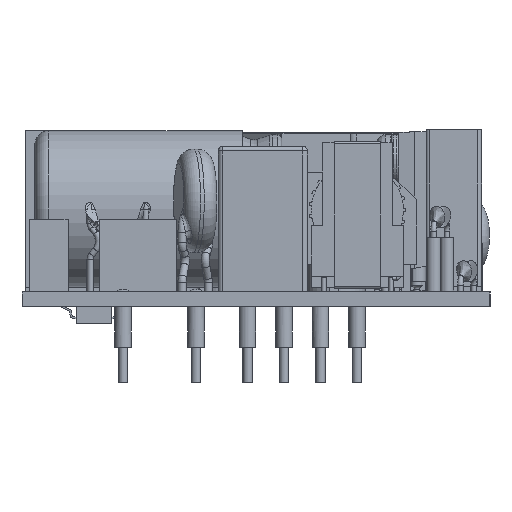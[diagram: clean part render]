
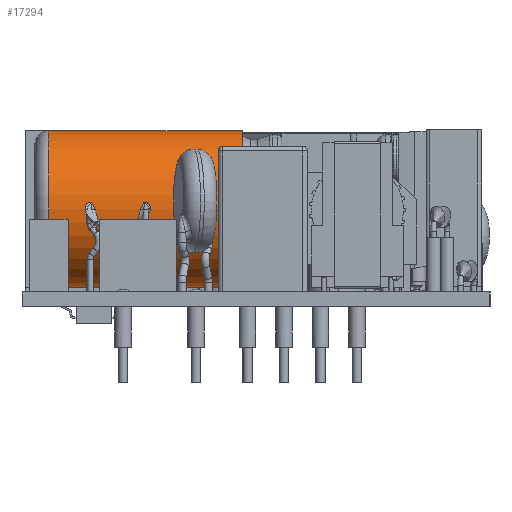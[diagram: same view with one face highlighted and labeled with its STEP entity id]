
A CAD part, left-side view. The second image highlights one B-rep face of the part: STEP entity #17294.
In plain terms, the highlighted cylindrical face has radius 8.5 mm (diameter 17 mm), a full revolution.
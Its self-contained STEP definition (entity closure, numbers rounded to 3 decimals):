
#3275 = AXIS2_PLACEMENT_3D ( 'NONE', #55574, #61358, #22187 ) ;
#4843 = ORIENTED_EDGE ( 'NONE', *, *, #48066, .F. ) ;
#9757 = VERTEX_POINT ( 'NONE', #25483 ) ;
#11199 = EDGE_CURVE ( 'NONE', #9757, #9757, #61766, .T. ) ;
#11918 = CARTESIAN_POINT ( 'NONE',  ( -0.5, 1.5, 9. ) ) ;
#12887 = AXIS2_PLACEMENT_3D ( 'NONE', #29426, #53830, #63177 ) ;
#15193 = CIRCLE ( 'NONE', #25459, 8.5 ) ;
#17294 = ADVANCED_FACE ( 'NONE', ( #53199, #57689 ), #42918, .T. ) ;
#22187 = DIRECTION ( 'NONE',  ( 1., 0., 0. ) ) ;
#25459 = AXIS2_PLACEMENT_3D ( 'NONE', #36280, #55879, #51058 ) ;
#25483 = CARTESIAN_POINT ( 'NONE',  ( -0.5, 22.5, 9. ) ) ;
#27302 = VERTEX_POINT ( 'NONE', #11918 ) ;
#29426 = CARTESIAN_POINT ( 'NONE',  ( -9., -2.8, 9. ) ) ;
#36280 = CARTESIAN_POINT ( 'NONE',  ( -9., 1.5, 9. ) ) ;
#42918 = CYLINDRICAL_SURFACE ( 'NONE', #12887, 8.5 ) ;
#44183 = EDGE_LOOP ( 'NONE', ( #50528 ) ) ;
#48066 = EDGE_CURVE ( 'NONE', #27302, #27302, #15193, .T. ) ;
#50528 = ORIENTED_EDGE ( 'NONE', *, *, #11199, .T. ) ;
#51058 = DIRECTION ( 'NONE',  ( 1., 0., 0. ) ) ;
#53199 = FACE_OUTER_BOUND ( 'NONE', #60122, .T. ) ;
#53830 = DIRECTION ( 'NONE',  ( 0., -1., 0. ) ) ;
#55574 = CARTESIAN_POINT ( 'NONE',  ( -9., 22.5, 9. ) ) ;
#55879 = DIRECTION ( 'NONE',  ( 0., -1., 0. ) ) ;
#57689 = FACE_OUTER_BOUND ( 'NONE', #44183, .T. ) ;
#60122 = EDGE_LOOP ( 'NONE', ( #4843 ) ) ;
#61358 = DIRECTION ( 'NONE',  ( 0., -1., 0. ) ) ;
#61766 = CIRCLE ( 'NONE', #3275, 8.5 ) ;
#63177 = DIRECTION ( 'NONE',  ( 1., 0., 0. ) ) ;
